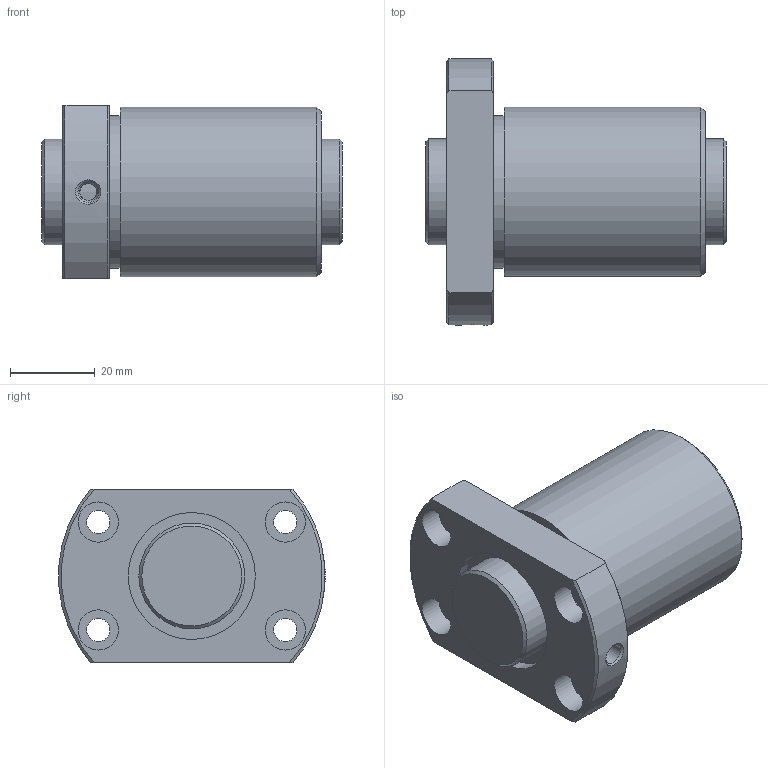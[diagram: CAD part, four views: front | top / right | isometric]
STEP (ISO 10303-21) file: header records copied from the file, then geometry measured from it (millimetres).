
FILE_DESCRIPTION(/* description */ ('STEP AP203'),/* implementation_level */ '2;1');
FILE_NAME(/* name */ 'DIK2505-6RRG0+71LC0_000',/* time_stamp */ '2025-01-13T09:48:33+01:00',/* author */ ('License CC BY-ND 4.0'),/* organization */ ('CADENAS'),/* preprocessor_version */ 'ST-DEVELOPER v19.3',/* originating_system */ 'PARTsolutions',/* authorisation */ ' ');
FILE_SCHEMA (('CONFIG_CONTROL_DESIGN'));
Length unit declared in the file: millimetre
Products named in the file (3): DIK2505-6RRG0+71LC0_000; DIK 2505-6RR07100 Shaft; DIK 2505-6RR Nut
Assembly tree (2 placements, depth 2):
  DIK2505-6RRG0+71LC0_000
    DIK 2505-6RR07100 Shaft
    DIK 2505-6RR Nut
Bounding box: 71 x 62.9 x 41 mm (x, y, z)
Volume: 89698.5 mm3; surface area: 24861 mm2
Topology: 2 solids, 2 shells, 41 faces, 83 edges, 54 vertices
Faces by surface type: cylinder 18, plane 14, cone 9
Full cylindrical faces by diameter (mm): 4 x1, 4.917 x1, 5.5 x4, 9.5 x4, 25 x2, 30 x2, 36 x1, 40 x1
Entity records: 1087 total; most frequent: CARTESIAN_POINT 200, DIRECTION 180, ORIENTED_EDGE 120, AXIS2_PLACEMENT_3D 86, EDGE_LOOP 82, FACE_BOUND 82, EDGE_CURVE 60, VERTEX_POINT 52
